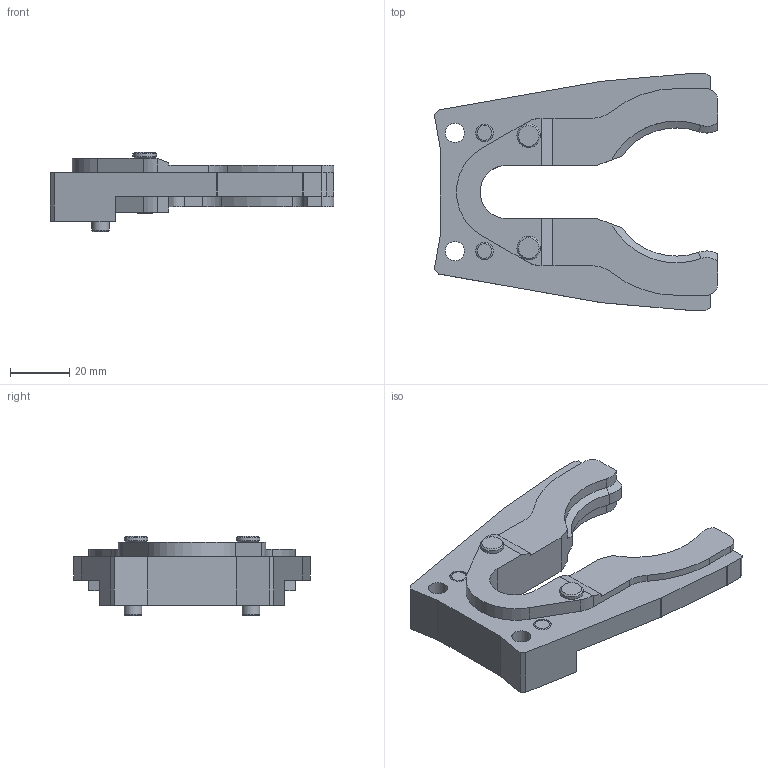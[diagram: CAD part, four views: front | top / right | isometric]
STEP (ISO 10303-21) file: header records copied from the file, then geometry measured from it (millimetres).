
FILE_DESCRIPTION(/* description */ ('Unknown'),/* implementation_level */ '2;1');
FILE_NAME(/* name */ '29L0199077F',/* time_stamp */ '2017-01-09T14:50:25+01:00',/* author */ ('Unknown'),/* organization */ ('Unknown'),/* preprocessor_version */ 'ST-DEVELOPER v16.7',/* originating_system */ 'DEX',/* authorisation */ $);
FILE_SCHEMA (('AUTOMOTIVE_DESIGN {1 0 10303 214 3 1 1}'));
Length unit declared in the file: millimetre
Products named in the file (1): 29L0199077F
Bounding box: 96 x 80 x 26.8 mm (x, y, z)
Volume: 52969 mm3; surface area: 19830 mm2
Topology: 1 solids, 1 shells, 158 faces, 434 edges, 282 vertices
Faces by surface type: plane 81, cylinder 59, cone 14, torus 4
Full cylindrical faces by diameter (mm): 5.9 x2, 6 x4, 6.5 x2, 8 x2
Entity records: 6064 total; most frequent: CARTESIAN_POINT 913, DIRECTION 854, ORIENTED_EDGE 816, EDGE_CURVE 408, AXIS2_PLACEMENT_3D 295, VERTEX_POINT 276, LINE 264, VECTOR 264
